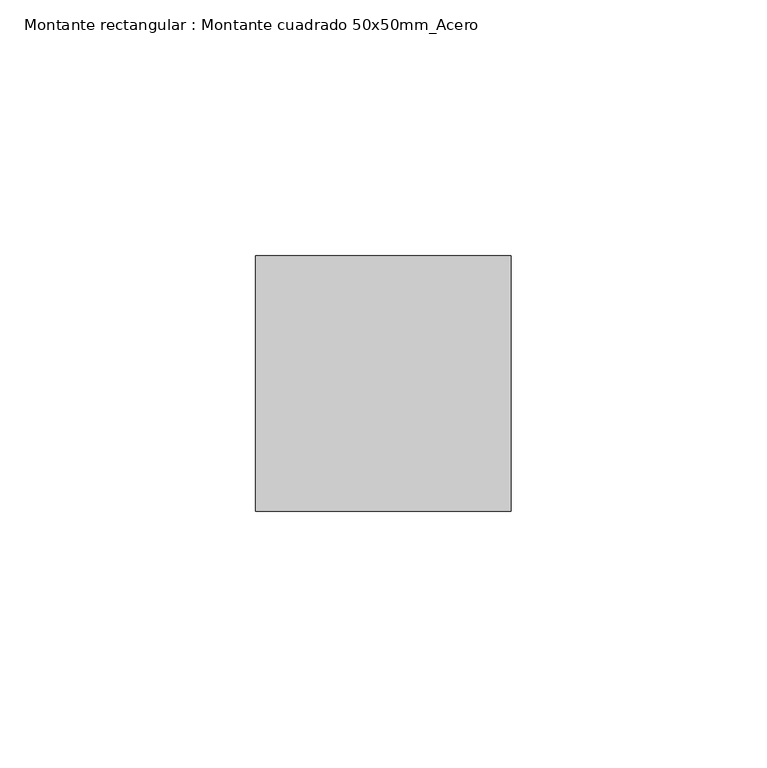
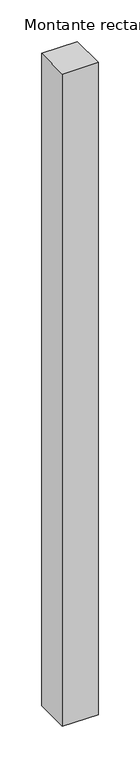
"""IFC4 building model written with IfcOpenShell, lengths in millimetres: member geometry, Montante rectangular : Montante cuadrado 50x50mm_Acero."""

from ifc_helpers import new_model, si_unit, frame, origin, place, context, project, spatial, polyline, outline, extrude, source, transform, mapped, element, save


def montante_rectangular_montante_cuadrado_50x50mm_acero_2f170128(model_context):
    return source(origin(), model_context, "Body", "SweptSolid", [
        extrude(outline(polyline([(0.0, 0.0), (-50.0, 0.0), (-50.0, 50.0), (0.0, 50.0), (0.0, 0.0)])), frame((0.0, 0.0, -959.5380426), z_axis=(0.0, 0.0, 1.0), x_axis=(1.0, 0.0, 0.0)), (0.0, 0.0, 1.0), 959.5380426),
    ])


if __name__ == "__main__":
    model = new_model("IFC4")
    model_context = context("Model", 3, world=origin())
    ifc_project = project(units=[si_unit("LENGTHUNIT", "METRE", prefix="MILLI")], contexts=[model_context])
    site = spatial("IfcSite", under=ifc_project)
    building = spatial("IfcBuilding", under=site)
    placement = place(None, origin())
    montante_rectangular_montante_cuadrado_50x50mm_acero_shape = montante_rectangular_montante_cuadrado_50x50mm_acero_2f170128(model_context)
    element("IfcMember", 1, ObjectType="Montante rectangular : Montante cuadrado 50x50mm_Acero", at=placement, inside=building, context=model_context, shape_type="MappedRepresentation", body=[
        mapped(montante_rectangular_montante_cuadrado_50x50mm_acero_shape, transform((0.0, 0.0, 0.0), x_axis=(1.0, 0.0, 0.0), y_axis=(0.0, 1.0, 0.0), z_axis=(0.0, 0.0, 1.0))),
    ])
    save(model, "model.ifc")
